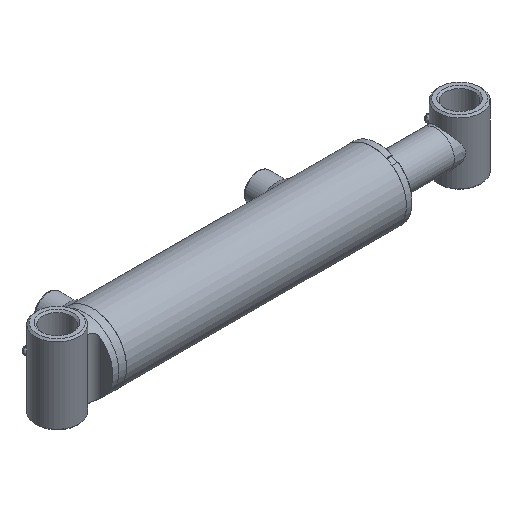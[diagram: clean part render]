
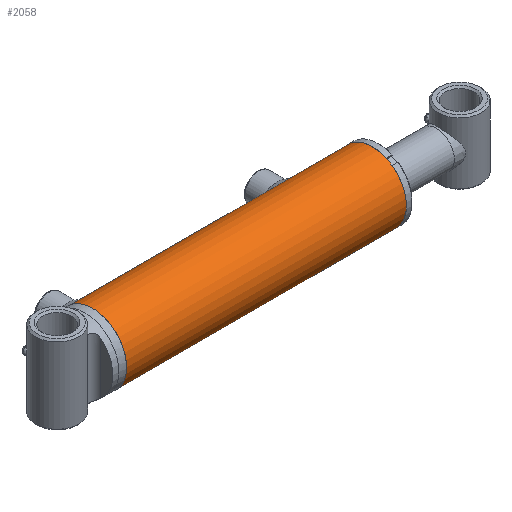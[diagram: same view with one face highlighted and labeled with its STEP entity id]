
A CAD part, isometric view. The second image highlights one B-rep face of the part: STEP entity #2058.
In plain terms, the highlighted cylindrical face has radius 30.163 mm (diameter 60.325 mm), a full revolution.
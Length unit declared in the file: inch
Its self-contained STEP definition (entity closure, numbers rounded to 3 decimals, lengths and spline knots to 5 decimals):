
#377=FACE_BOUND('',#700,.T.);
#378=FACE_BOUND('',#701,.T.);
#379=FACE_BOUND('',#702,.T.);
#500=FACE_OUTER_BOUND('',#699,.T.);
#699=EDGE_LOOP('',(#1636));
#700=EDGE_LOOP('',(#1637));
#701=EDGE_LOOP('',(#1638));
#702=EDGE_LOOP('',(#1639));
#908=CIRCLE('',#2250,1.1875);
#912=CIRCLE('',#2258,1.1875);
#1027=B_SPLINE_CURVE_WITH_KNOTS('',3,(#4667,#4668,#4669,#4670,#4671,#4672,
#4673,#4674,#4675,#4676,#4677,#4678,#4679,#4680,#4681,#4682,#4683,#4684,
#4685,#4686,#4687,#4688,#4689,#4690,#4691,#4692,#4693,#4694,#4695,#4696,
#4697,#4698,#4699,#4700),.UNSPECIFIED.,.T.,.F.,(4,2,2,2,2,2,2,2,2,2,2,2,
2,2,2,2,4),(0.,0.18872,0.37744,0.56616,0.75487,
0.94359,1.1323,1.32102,1.50975,1.69847,
1.88719,2.0759,2.26462,2.45333,2.64205,
2.83077,3.01949),.UNSPECIFIED.);
#1029=B_SPLINE_CURVE_WITH_KNOTS('',3,(#4840,#4841,#4842,#4843,#4844,#4845,
#4846,#4847,#4848,#4849,#4850,#4851,#4852,#4853,#4854,#4855,#4856,#4857,
#4858,#4859,#4860,#4861,#4862,#4863,#4864,#4865,#4866,#4867,#4868,#4869,
#4870,#4871,#4872,#4873),.UNSPECIFIED.,.T.,.F.,(4,2,2,2,2,2,2,2,2,2,2,2,
2,2,2,2,4),(0.,0.18872,0.37744,0.56616,0.75487,
0.94359,1.1323,1.32102,1.50975,1.69847,
1.88719,2.0759,2.26462,2.45333,2.64205,
2.83077,3.01949),.UNSPECIFIED.);
#1098=VERTEX_POINT('',#4666);
#1100=VERTEX_POINT('',#4839);
#1104=VERTEX_POINT('',#4883);
#1108=VERTEX_POINT('',#4895);
#1303=EDGE_CURVE('',#1098,#1098,#1027,.T.);
#1306=EDGE_CURVE('',#1100,#1100,#1029,.T.);
#1310=EDGE_CURVE('',#1104,#1104,#908,.T.);
#1314=EDGE_CURVE('',#1108,#1108,#912,.T.);
#1636=ORIENTED_EDGE('',*,*,#1314,.T.);
#1637=ORIENTED_EDGE('',*,*,#1303,.T.);
#1638=ORIENTED_EDGE('',*,*,#1306,.T.);
#1639=ORIENTED_EDGE('',*,*,#1310,.F.);
#1980=CYLINDRICAL_SURFACE('',#2260,1.1875);
#2058=ADVANCED_FACE('',(#500,#377,#378,#379),#1980,.T.);
#2250=AXIS2_PLACEMENT_3D('',#4884,#2627,#2628);
#2258=AXIS2_PLACEMENT_3D('',#4896,#2643,#2644);
#2260=AXIS2_PLACEMENT_3D('',#4898,#2647,#2648);
#2627=DIRECTION('center_axis',(1.,0.,0.));
#2628=DIRECTION('ref_axis',(0.,-1.,0.));
#2643=DIRECTION('center_axis',(1.,0.,0.));
#2644=DIRECTION('ref_axis',(0.,-1.,0.));
#2647=DIRECTION('center_axis',(1.,0.,0.));
#2648=DIRECTION('ref_axis',(0.,-1.,0.));
#4666=CARTESIAN_POINT('',(2.94094,1.17107,-0.19685));
#4667=CARTESIAN_POINT('Ctrl Pts',(2.94094,1.17107,-0.19685));
#4668=CARTESIAN_POINT('Ctrl Pts',(2.96571,1.17107,-0.19685));
#4669=CARTESIAN_POINT('Ctrl Pts',(2.9921,1.17194,-0.19189));
#4670=CARTESIAN_POINT('Ctrl Pts',(3.04058,1.17505,-0.17179));
#4671=CARTESIAN_POINT('Ctrl Pts',(3.06269,1.17725,-0.15665));
#4672=CARTESIAN_POINT('Ctrl Pts',(3.09759,1.18137,-0.12174));
#4673=CARTESIAN_POINT('Ctrl Pts',(3.11273,1.18356,-0.09964));
#4674=CARTESIAN_POINT('Ctrl Pts',(3.13284,1.18665,-0.05115));
#4675=CARTESIAN_POINT('Ctrl Pts',(3.1378,1.1875,-0.02477));
#4676=CARTESIAN_POINT('Ctrl Pts',(3.1378,1.1875,0.02477));
#4677=CARTESIAN_POINT('Ctrl Pts',(3.13284,1.18665,0.05115));
#4678=CARTESIAN_POINT('Ctrl Pts',(3.11273,1.18356,0.09964));
#4679=CARTESIAN_POINT('Ctrl Pts',(3.09759,1.18137,0.12174));
#4680=CARTESIAN_POINT('Ctrl Pts',(3.06269,1.17725,0.15665));
#4681=CARTESIAN_POINT('Ctrl Pts',(3.04058,1.17505,0.17179));
#4682=CARTESIAN_POINT('Ctrl Pts',(2.9921,1.17194,0.19189));
#4683=CARTESIAN_POINT('Ctrl Pts',(2.96571,1.17107,0.19685));
#4684=CARTESIAN_POINT('Ctrl Pts',(2.91618,1.17107,0.19685));
#4685=CARTESIAN_POINT('Ctrl Pts',(2.88979,1.17194,0.19189));
#4686=CARTESIAN_POINT('Ctrl Pts',(2.84131,1.17505,0.17179));
#4687=CARTESIAN_POINT('Ctrl Pts',(2.8192,1.17725,0.15665));
#4688=CARTESIAN_POINT('Ctrl Pts',(2.7843,1.18137,0.12174));
#4689=CARTESIAN_POINT('Ctrl Pts',(2.76916,1.18356,0.09964));
#4690=CARTESIAN_POINT('Ctrl Pts',(2.74905,1.18665,0.05115));
#4691=CARTESIAN_POINT('Ctrl Pts',(2.74409,1.1875,0.02477));
#4692=CARTESIAN_POINT('Ctrl Pts',(2.74409,1.1875,-0.02477));
#4693=CARTESIAN_POINT('Ctrl Pts',(2.74905,1.18665,-0.05115));
#4694=CARTESIAN_POINT('Ctrl Pts',(2.76916,1.18356,-0.09964));
#4695=CARTESIAN_POINT('Ctrl Pts',(2.7843,1.18137,-0.12174));
#4696=CARTESIAN_POINT('Ctrl Pts',(2.8192,1.17725,-0.15665));
#4697=CARTESIAN_POINT('Ctrl Pts',(2.84131,1.17505,-0.17179));
#4698=CARTESIAN_POINT('Ctrl Pts',(2.88979,1.17194,-0.19189));
#4699=CARTESIAN_POINT('Ctrl Pts',(2.91618,1.17107,-0.19685));
#4700=CARTESIAN_POINT('Ctrl Pts',(2.94094,1.17107,-0.19685));
#4839=CARTESIAN_POINT('',(-4.35827,1.17107,-0.19685));
#4840=CARTESIAN_POINT('Ctrl Pts',(-4.35827,1.17107,-0.19685));
#4841=CARTESIAN_POINT('Ctrl Pts',(-4.3335,1.17107,-0.19685));
#4842=CARTESIAN_POINT('Ctrl Pts',(-4.30712,1.17194,-0.19189));
#4843=CARTESIAN_POINT('Ctrl Pts',(-4.25863,1.17505,-0.17179));
#4844=CARTESIAN_POINT('Ctrl Pts',(-4.23653,1.17725,-0.15665));
#4845=CARTESIAN_POINT('Ctrl Pts',(-4.20162,1.18137,-0.12174));
#4846=CARTESIAN_POINT('Ctrl Pts',(-4.18648,1.18356,-0.09964));
#4847=CARTESIAN_POINT('Ctrl Pts',(-4.16638,1.18665,-0.05115));
#4848=CARTESIAN_POINT('Ctrl Pts',(-4.16142,1.1875,-0.02477));
#4849=CARTESIAN_POINT('Ctrl Pts',(-4.16142,1.1875,0.02477));
#4850=CARTESIAN_POINT('Ctrl Pts',(-4.16638,1.18665,0.05115));
#4851=CARTESIAN_POINT('Ctrl Pts',(-4.18648,1.18356,0.09964));
#4852=CARTESIAN_POINT('Ctrl Pts',(-4.20162,1.18137,0.12174));
#4853=CARTESIAN_POINT('Ctrl Pts',(-4.23653,1.17725,0.15665));
#4854=CARTESIAN_POINT('Ctrl Pts',(-4.25863,1.17505,0.17179));
#4855=CARTESIAN_POINT('Ctrl Pts',(-4.30712,1.17194,0.19189));
#4856=CARTESIAN_POINT('Ctrl Pts',(-4.3335,1.17107,0.19685));
#4857=CARTESIAN_POINT('Ctrl Pts',(-4.38303,1.17107,0.19685));
#4858=CARTESIAN_POINT('Ctrl Pts',(-4.40942,1.17194,0.19189));
#4859=CARTESIAN_POINT('Ctrl Pts',(-4.45791,1.17505,0.17179));
#4860=CARTESIAN_POINT('Ctrl Pts',(-4.48001,1.17725,0.15665));
#4861=CARTESIAN_POINT('Ctrl Pts',(-4.51491,1.18137,0.12174));
#4862=CARTESIAN_POINT('Ctrl Pts',(-4.53006,1.18356,0.09964));
#4863=CARTESIAN_POINT('Ctrl Pts',(-4.55016,1.18665,0.05115));
#4864=CARTESIAN_POINT('Ctrl Pts',(-4.55512,1.1875,0.02477));
#4865=CARTESIAN_POINT('Ctrl Pts',(-4.55512,1.1875,-0.02477));
#4866=CARTESIAN_POINT('Ctrl Pts',(-4.55016,1.18665,-0.05115));
#4867=CARTESIAN_POINT('Ctrl Pts',(-4.53006,1.18356,-0.09964));
#4868=CARTESIAN_POINT('Ctrl Pts',(-4.51491,1.18137,-0.12174));
#4869=CARTESIAN_POINT('Ctrl Pts',(-4.48001,1.17725,-0.15665));
#4870=CARTESIAN_POINT('Ctrl Pts',(-4.45791,1.17505,-0.17179));
#4871=CARTESIAN_POINT('Ctrl Pts',(-4.40942,1.17194,-0.19189));
#4872=CARTESIAN_POINT('Ctrl Pts',(-4.38303,1.17107,-0.19685));
#4873=CARTESIAN_POINT('Ctrl Pts',(-4.35827,1.17107,-0.19685));
#4883=CARTESIAN_POINT('',(4.94882,1.1875,0.));
#4884=CARTESIAN_POINT('Origin',(4.94882,0.,0.));
#4895=CARTESIAN_POINT('',(-4.78494,1.1875,0.));
#4896=CARTESIAN_POINT('Origin',(-4.78494,0.,0.));
#4898=CARTESIAN_POINT('Origin',(0.,0.,0.));
